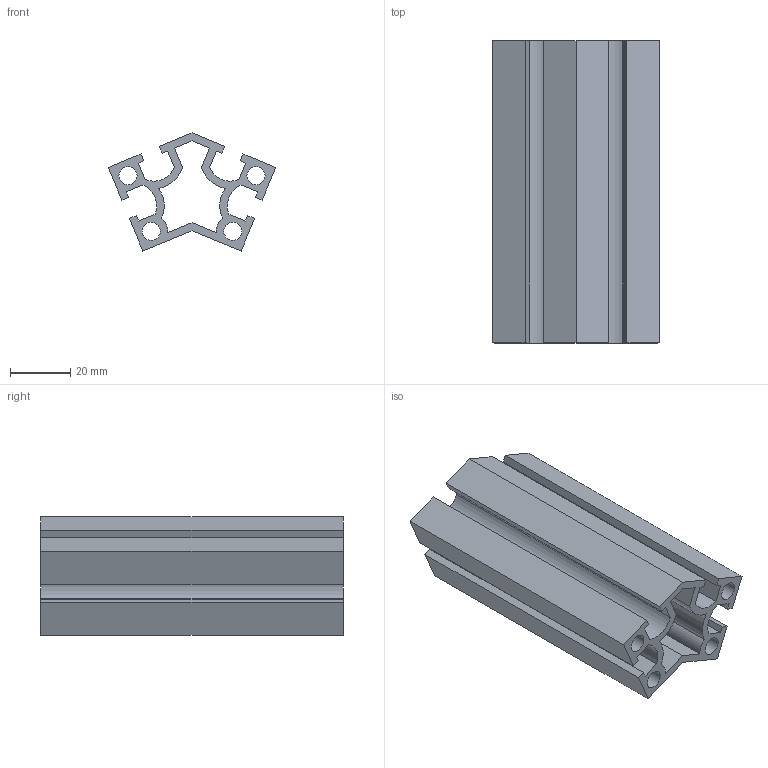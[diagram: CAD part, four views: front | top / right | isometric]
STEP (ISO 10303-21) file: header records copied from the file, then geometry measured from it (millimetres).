
FILE_DESCRIPTION(/* description */ ('Unknown'),/* implementation_level */ '2;1');
FILE_NAME(/* name */ 'NMW30135',/* time_stamp */ '2026-08-31T11:25:20+08:00',/* author */ ('Unknown'),/* organization */ ('Unknown'),/* preprocessor_version */ 'ST-DEVELOPER v16.7',/* originating_system */ 'DEX',/* authorisation */ $);
FILE_SCHEMA (('AUTOMOTIVE_DESIGN {1 0 10303 214 3 1 1}'));
Length unit declared in the file: millimetre
Products named in the file (1): W30135-
Bounding box: 55.43 x 100 x 39.2 mm (x, y, z)
Volume: 54609.3 mm3; surface area: 44239.3 mm2
Topology: 1 solids, 1 shells, 56 faces, 166 edges, 112 vertices
Faces by surface type: plane 42, cylinder 14
Full cylindrical faces by diameter (mm): 6 x4
Entity records: 1864 total; most frequent: CARTESIAN_POINT 323, ORIENTED_EDGE 316, DIRECTION 300, EDGE_CURVE 158, LINE 130, VECTOR 130, VERTEX_POINT 108, AXIS2_PLACEMENT_3D 85
